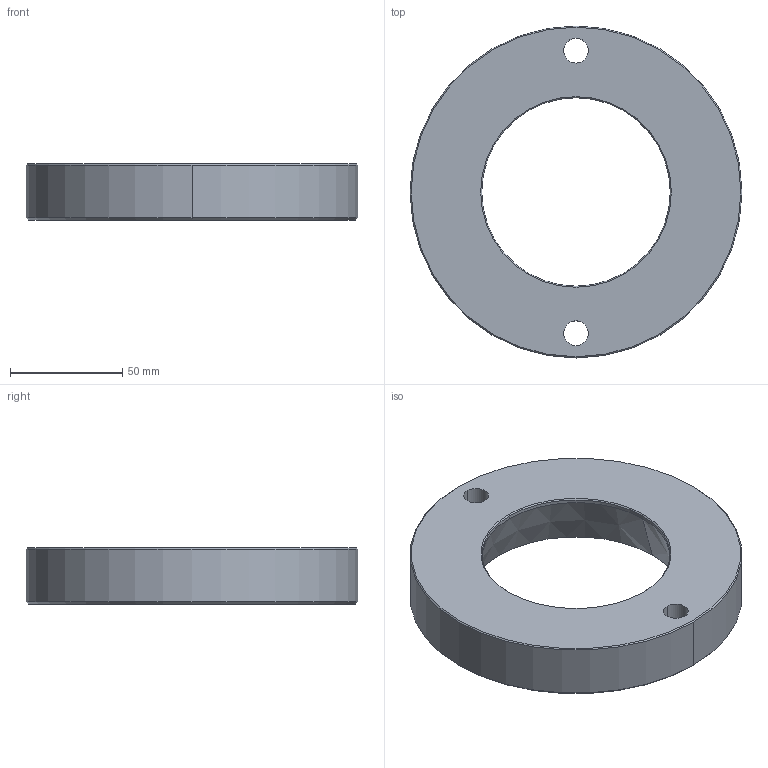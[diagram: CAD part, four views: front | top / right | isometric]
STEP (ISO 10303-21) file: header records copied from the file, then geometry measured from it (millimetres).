
FILE_DESCRIPTION((''),'2;1');
FILE_NAME('','2010-08-30T17:25:43+09:00',('misumi'),(''),'M/STEP i/f 1R2-14','CADmeister v5.1','');
FILE_SCHEMA(('AUTOMOTIVE_DESIGN'));
Length unit declared in the file: millimetre
Products named in the file (1): HKD60-25-Y
Bounding box: 148 x 148 x 25 mm (x, y, z)
Volume: 262483.2 mm3; surface area: 41947.1 mm2
Topology: 1 solids, 1 shells, 24 faces, 54 edges, 34 vertices
Faces by surface type: cylinder 12, cone 8, plane 4
Entity records: 782 total; most frequent: DIRECTION 138, CARTESIAN_POINT 113, ORIENTED_EDGE 108, AXIS2_PLACEMENT_3D 59, EDGE_CURVE 54, VERTEX_POINT 34, CIRCLE 34, EDGE_LOOP 32
